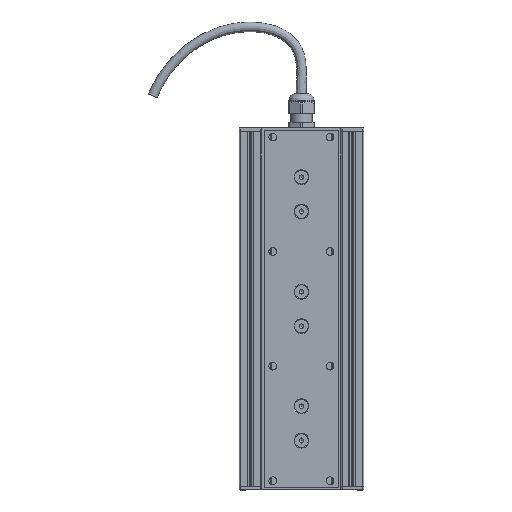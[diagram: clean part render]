
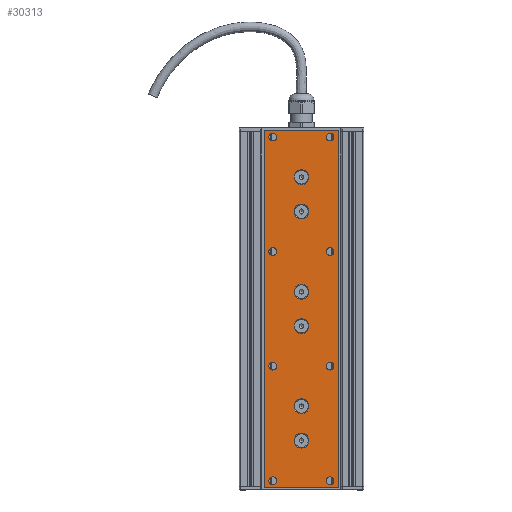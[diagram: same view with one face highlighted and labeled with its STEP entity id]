
A CAD part, top view. The second image highlights one B-rep face of the part: STEP entity #30313.
In plain terms, the highlighted planar face has unit normal (0, 0, 1).
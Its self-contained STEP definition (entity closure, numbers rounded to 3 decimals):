
#806=FACE_BOUND('',#10682,.T.);
#807=FACE_BOUND('',#10683,.T.);
#808=FACE_BOUND('',#10684,.T.);
#809=FACE_BOUND('',#10685,.T.);
#810=FACE_BOUND('',#10686,.T.);
#811=FACE_BOUND('',#10687,.T.);
#812=FACE_BOUND('',#10688,.T.);
#813=FACE_BOUND('',#10689,.T.);
#814=FACE_BOUND('',#10690,.T.);
#815=FACE_BOUND('',#10691,.T.);
#816=FACE_BOUND('',#10692,.T.);
#817=FACE_BOUND('',#10693,.T.);
#818=FACE_BOUND('',#10694,.T.);
#819=FACE_BOUND('',#10695,.T.);
#1135=PLANE('',#33626);
#2606=LINE('',#50159,#5593);
#2609=LINE('',#50165,#5596);
#2612=LINE('',#50171,#5599);
#2615=LINE('',#50175,#5602);
#5593=VECTOR('',#38628,10.);
#5596=VECTOR('',#38633,10.);
#5599=VECTOR('',#38638,10.);
#5602=VECTOR('',#38643,10.);
#9201=FACE_OUTER_BOUND('',#10681,.T.);
#10681=EDGE_LOOP('',(#24625,#24626,#24627,#24628));
#10682=EDGE_LOOP('',(#24629));
#10683=EDGE_LOOP('',(#24630));
#10684=EDGE_LOOP('',(#24631));
#10685=EDGE_LOOP('',(#24632));
#10686=EDGE_LOOP('',(#24633));
#10687=EDGE_LOOP('',(#24634));
#10688=EDGE_LOOP('',(#24635));
#10689=EDGE_LOOP('',(#24636));
#10690=EDGE_LOOP('',(#24637));
#10691=EDGE_LOOP('',(#24638));
#10692=EDGE_LOOP('',(#24639));
#10693=EDGE_LOOP('',(#24640));
#10694=EDGE_LOOP('',(#24641));
#10695=EDGE_LOOP('',(#24642));
#12608=CIRCLE('',#33569,3.39);
#12610=CIRCLE('',#33572,3.39);
#12612=CIRCLE('',#33575,3.39);
#12614=CIRCLE('',#33578,3.39);
#12616=CIRCLE('',#33581,3.39);
#12618=CIRCLE('',#33584,3.39);
#12620=CIRCLE('',#33587,3.39);
#12622=CIRCLE('',#33590,3.39);
#12624=CIRCLE('',#33593,6.5);
#12627=CIRCLE('',#33598,6.5);
#12630=CIRCLE('',#33603,6.5);
#12633=CIRCLE('',#33608,6.5);
#12636=CIRCLE('',#33613,6.5);
#12639=CIRCLE('',#33618,6.5);
#14640=VERTEX_POINT('',#50045);
#14642=VERTEX_POINT('',#50051);
#14644=VERTEX_POINT('',#50057);
#14646=VERTEX_POINT('',#50063);
#14648=VERTEX_POINT('',#50069);
#14650=VERTEX_POINT('',#50075);
#14652=VERTEX_POINT('',#50081);
#14654=VERTEX_POINT('',#50087);
#14656=VERTEX_POINT('',#50093);
#14659=VERTEX_POINT('',#50103);
#14662=VERTEX_POINT('',#50113);
#14665=VERTEX_POINT('',#50123);
#14668=VERTEX_POINT('',#50133);
#14671=VERTEX_POINT('',#50143);
#14676=VERTEX_POINT('',#50156);
#14677=VERTEX_POINT('',#50158);
#14679=VERTEX_POINT('',#50164);
#14681=VERTEX_POINT('',#50170);
#18976=EDGE_CURVE('',#14640,#14640,#12608,.T.);
#18979=EDGE_CURVE('',#14642,#14642,#12610,.T.);
#18982=EDGE_CURVE('',#14644,#14644,#12612,.T.);
#18985=EDGE_CURVE('',#14646,#14646,#12614,.T.);
#18988=EDGE_CURVE('',#14648,#14648,#12616,.T.);
#18991=EDGE_CURVE('',#14650,#14650,#12618,.T.);
#18994=EDGE_CURVE('',#14652,#14652,#12620,.T.);
#18997=EDGE_CURVE('',#14654,#14654,#12622,.T.);
#19000=EDGE_CURVE('',#14656,#14656,#12624,.T.);
#19005=EDGE_CURVE('',#14659,#14659,#12627,.T.);
#19010=EDGE_CURVE('',#14662,#14662,#12630,.T.);
#19015=EDGE_CURVE('',#14665,#14665,#12633,.T.);
#19020=EDGE_CURVE('',#14668,#14668,#12636,.T.);
#19025=EDGE_CURVE('',#14671,#14671,#12639,.T.);
#19032=EDGE_CURVE('',#14677,#14676,#2606,.T.);
#19035=EDGE_CURVE('',#14679,#14677,#2609,.T.);
#19038=EDGE_CURVE('',#14681,#14679,#2612,.T.);
#19041=EDGE_CURVE('',#14676,#14681,#2615,.T.);
#24625=ORIENTED_EDGE('',*,*,#19041,.T.);
#24626=ORIENTED_EDGE('',*,*,#19038,.T.);
#24627=ORIENTED_EDGE('',*,*,#19035,.T.);
#24628=ORIENTED_EDGE('',*,*,#19032,.T.);
#24629=ORIENTED_EDGE('',*,*,#18976,.T.);
#24630=ORIENTED_EDGE('',*,*,#18979,.T.);
#24631=ORIENTED_EDGE('',*,*,#18982,.T.);
#24632=ORIENTED_EDGE('',*,*,#18985,.T.);
#24633=ORIENTED_EDGE('',*,*,#18988,.T.);
#24634=ORIENTED_EDGE('',*,*,#18991,.T.);
#24635=ORIENTED_EDGE('',*,*,#18994,.T.);
#24636=ORIENTED_EDGE('',*,*,#18997,.T.);
#24637=ORIENTED_EDGE('',*,*,#19000,.T.);
#24638=ORIENTED_EDGE('',*,*,#19005,.T.);
#24639=ORIENTED_EDGE('',*,*,#19010,.T.);
#24640=ORIENTED_EDGE('',*,*,#19015,.T.);
#24641=ORIENTED_EDGE('',*,*,#19020,.T.);
#24642=ORIENTED_EDGE('',*,*,#19025,.T.);
#30313=ADVANCED_FACE('',(#9201,#806,#807,#808,#809,#810,#811,#812,#813,
#814,#815,#816,#817,#818,#819),#1135,.T.);
#33569=AXIS2_PLACEMENT_3D('',#50046,#38498,#38499);
#33572=AXIS2_PLACEMENT_3D('',#50052,#38505,#38506);
#33575=AXIS2_PLACEMENT_3D('',#50058,#38512,#38513);
#33578=AXIS2_PLACEMENT_3D('',#50064,#38519,#38520);
#33581=AXIS2_PLACEMENT_3D('',#50070,#38526,#38527);
#33584=AXIS2_PLACEMENT_3D('',#50076,#38533,#38534);
#33587=AXIS2_PLACEMENT_3D('',#50082,#38540,#38541);
#33590=AXIS2_PLACEMENT_3D('',#50088,#38547,#38548);
#33593=AXIS2_PLACEMENT_3D('',#50094,#38554,#38555);
#33598=AXIS2_PLACEMENT_3D('',#50104,#38566,#38567);
#33603=AXIS2_PLACEMENT_3D('',#50114,#38578,#38579);
#33608=AXIS2_PLACEMENT_3D('',#50124,#38590,#38591);
#33613=AXIS2_PLACEMENT_3D('',#50134,#38602,#38603);
#33618=AXIS2_PLACEMENT_3D('',#50144,#38614,#38615);
#33626=AXIS2_PLACEMENT_3D('',#50176,#38644,#38645);
#38498=DIRECTION('center_axis',(0.,0.,-1.));
#38499=DIRECTION('ref_axis',(1.,0.,0.));
#38505=DIRECTION('center_axis',(0.,0.,-1.));
#38506=DIRECTION('ref_axis',(1.,0.,0.));
#38512=DIRECTION('center_axis',(0.,0.,-1.));
#38513=DIRECTION('ref_axis',(1.,0.,0.));
#38519=DIRECTION('center_axis',(0.,0.,-1.));
#38520=DIRECTION('ref_axis',(1.,0.,0.));
#38526=DIRECTION('center_axis',(0.,0.,-1.));
#38527=DIRECTION('ref_axis',(1.,0.,0.));
#38533=DIRECTION('center_axis',(0.,0.,-1.));
#38534=DIRECTION('ref_axis',(1.,0.,0.));
#38540=DIRECTION('center_axis',(0.,0.,-1.));
#38541=DIRECTION('ref_axis',(1.,0.,0.));
#38547=DIRECTION('center_axis',(0.,0.,-1.));
#38548=DIRECTION('ref_axis',(1.,0.,0.));
#38554=DIRECTION('center_axis',(0.,0.,-1.));
#38555=DIRECTION('ref_axis',(1.,0.,0.));
#38566=DIRECTION('center_axis',(0.,0.,-1.));
#38567=DIRECTION('ref_axis',(1.,0.,0.));
#38578=DIRECTION('center_axis',(0.,0.,-1.));
#38579=DIRECTION('ref_axis',(1.,0.,0.));
#38590=DIRECTION('center_axis',(0.,0.,-1.));
#38591=DIRECTION('ref_axis',(1.,0.,0.));
#38602=DIRECTION('center_axis',(0.,0.,-1.));
#38603=DIRECTION('ref_axis',(1.,0.,0.));
#38614=DIRECTION('center_axis',(0.,0.,-1.));
#38615=DIRECTION('ref_axis',(1.,0.,0.));
#38628=DIRECTION('',(1.,0.,0.));
#38633=DIRECTION('',(0.,-1.,0.));
#38638=DIRECTION('',(-1.,0.,0.));
#38643=DIRECTION('',(0.,1.,0.));
#38644=DIRECTION('center_axis',(0.,0.,1.));
#38645=DIRECTION('ref_axis',(1.,0.,0.));
#50045=CARTESIAN_POINT('',(21.61,-150.,12.));
#50046=CARTESIAN_POINT('Origin',(25.,-150.,12.));
#50051=CARTESIAN_POINT('',(-28.39,-50.,12.));
#50052=CARTESIAN_POINT('Origin',(-25.,-50.,12.));
#50057=CARTESIAN_POINT('',(21.61,50.,12.));
#50058=CARTESIAN_POINT('Origin',(25.,50.,12.));
#50063=CARTESIAN_POINT('',(-28.39,150.,12.));
#50064=CARTESIAN_POINT('Origin',(-25.,150.,12.));
#50069=CARTESIAN_POINT('',(21.61,150.,12.));
#50070=CARTESIAN_POINT('Origin',(25.,150.,12.));
#50075=CARTESIAN_POINT('',(-28.39,50.,12.));
#50076=CARTESIAN_POINT('Origin',(-25.,50.,12.));
#50081=CARTESIAN_POINT('',(21.61,-50.,12.));
#50082=CARTESIAN_POINT('Origin',(25.,-50.,12.));
#50087=CARTESIAN_POINT('',(-28.39,-150.,12.));
#50088=CARTESIAN_POINT('Origin',(-25.,-150.,12.));
#50093=CARTESIAN_POINT('',(-6.5,85.,12.));
#50094=CARTESIAN_POINT('Origin',(0.,85.,12.));
#50103=CARTESIAN_POINT('',(-6.5,-15.,12.));
#50104=CARTESIAN_POINT('Origin',(0.,-15.,12.));
#50113=CARTESIAN_POINT('',(-6.5,-85.,12.));
#50114=CARTESIAN_POINT('Origin',(0.,-85.,12.));
#50123=CARTESIAN_POINT('',(-6.5,-115.,12.));
#50124=CARTESIAN_POINT('Origin',(0.,-115.,12.));
#50133=CARTESIAN_POINT('',(-6.5,15.,12.));
#50134=CARTESIAN_POINT('Origin',(0.,15.,12.));
#50143=CARTESIAN_POINT('',(-6.5,115.,12.));
#50144=CARTESIAN_POINT('Origin',(0.,115.,12.));
#50156=CARTESIAN_POINT('',(32.5,-156.,12.));
#50158=CARTESIAN_POINT('',(-32.5,-156.,12.));
#50159=CARTESIAN_POINT('',(-32.5,-156.,12.));
#50164=CARTESIAN_POINT('',(-32.5,156.,12.));
#50165=CARTESIAN_POINT('',(-32.5,156.,12.));
#50170=CARTESIAN_POINT('',(32.5,156.,12.));
#50171=CARTESIAN_POINT('',(32.5,156.,12.));
#50175=CARTESIAN_POINT('',(32.5,-156.,12.));
#50176=CARTESIAN_POINT('Origin',(0.,0.,
12.));
